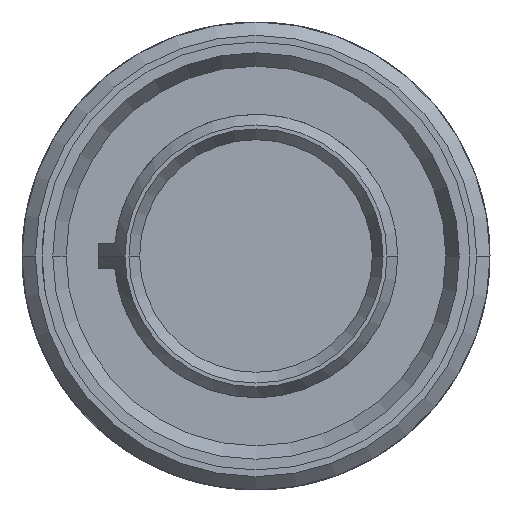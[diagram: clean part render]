
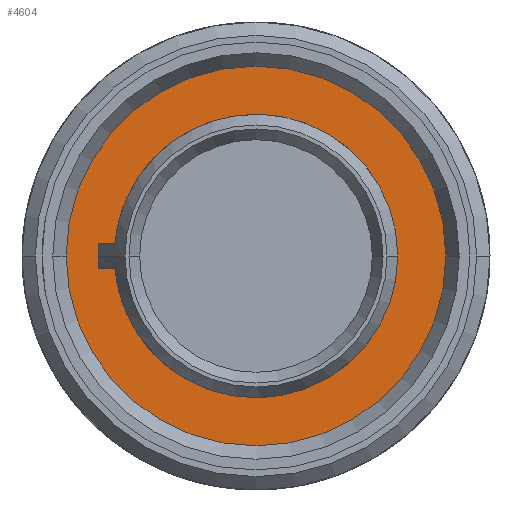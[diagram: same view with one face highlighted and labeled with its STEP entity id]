
A CAD part, left-side view. The second image highlights one B-rep face of the part: STEP entity #4604.
In plain terms, the highlighted planar face has unit normal (-1, 0, 0).
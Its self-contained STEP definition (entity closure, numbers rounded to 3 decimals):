
#198=CARTESIAN_POINT('',(11.8,0.,0.));
#199=DIRECTION('',(1.,0.,0.));
#200=DIRECTION('',(0.,1.,0.));
#201=AXIS2_PLACEMENT_3D('',#198,#199,#200);
#203=CARTESIAN_POINT('',(11.8,0.,0.));
#204=DIRECTION('',(1.,0.,0.));
#205=DIRECTION('',(0.,-1.,0.));
#206=AXIS2_PLACEMENT_3D('',#203,#204,#205);
#208=CARTESIAN_POINT('',(11.8,0.,0.));
#209=DIRECTION('',(-1.,0.,0.));
#210=DIRECTION('',(0.,1.,0.));
#211=AXIS2_PLACEMENT_3D('',#208,#209,#210);
#213=CARTESIAN_POINT('',(11.8,0.,0.));
#214=DIRECTION('',(-1.,0.,0.));
#215=DIRECTION('',(0.,-1.,0.));
#216=AXIS2_PLACEMENT_3D('',#213,#214,#215);
#3966=CARTESIAN_POINT('',(11.8,-5.3,0.));
#3967=VERTEX_POINT('',#3966);
#3968=CARTESIAN_POINT('',(11.8,5.3,0.));
#3969=VERTEX_POINT('',#3968);
#3970=CARTESIAN_POINT('',(11.8,7.1,0.));
#3971=CARTESIAN_POINT('',(11.8,-7.1,0.));
#3972=VERTEX_POINT('',#3970);
#3973=VERTEX_POINT('',#3971);
#4589=CARTESIAN_POINT('',(11.8,0.,0.));
#4590=DIRECTION('',(1.,0.,0.));
#4591=DIRECTION('',(0.,-1.,0.));
#4592=AXIS2_PLACEMENT_3D('',#4589,#4590,#4591);
#4593=PLANE('',#4592);
#4595=ORIENTED_EDGE('',*,*,#4594,.T.);
#4597=ORIENTED_EDGE('',*,*,#4596,.T.);
#4598=EDGE_LOOP('',(#4595,#4597));
#4599=FACE_OUTER_BOUND('',#4598,.F.);
#4600=ORIENTED_EDGE('',*,*,#4569,.T.);
#4601=ORIENTED_EDGE('',*,*,#4583,.T.);
#4602=EDGE_LOOP('',(#4600,#4601));
#4603=FACE_BOUND('',#4602,.F.);
#4604=ADVANCED_FACE('',(#4599,#4603),#4593,.F.);
#202=CIRCLE('',#201,7.1);
#207=CIRCLE('',#206,7.1);
#212=CIRCLE('',#211,5.3);
#217=CIRCLE('',#216,5.3);
#4569=EDGE_CURVE('',#3969,#3967,#212,.T.);
#4583=EDGE_CURVE('',#3967,#3969,#217,.T.);
#4594=EDGE_CURVE('',#3972,#3973,#202,.T.);
#4596=EDGE_CURVE('',#3973,#3972,#207,.T.);
